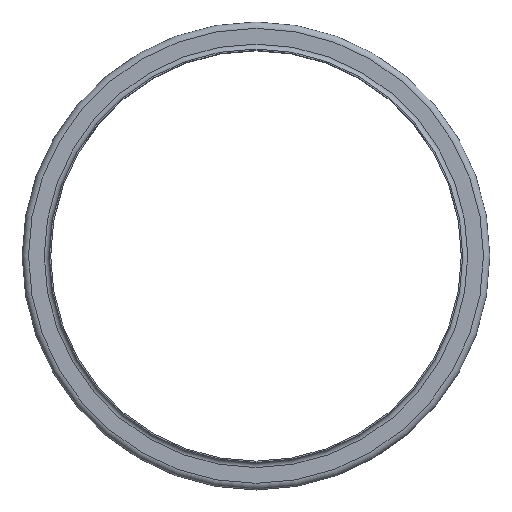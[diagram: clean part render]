
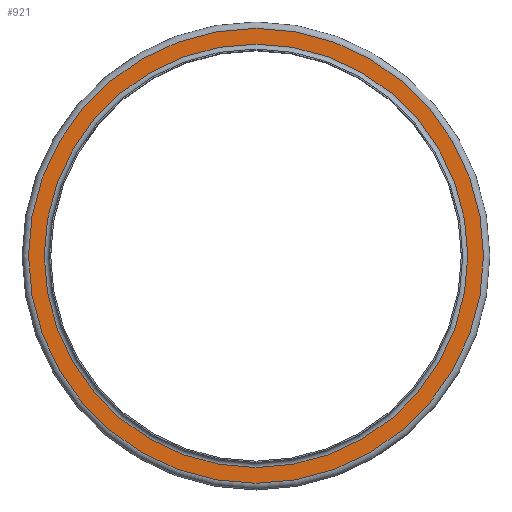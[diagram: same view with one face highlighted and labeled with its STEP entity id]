
A CAD part, top view. The second image highlights one B-rep face of the part: STEP entity #921.
In plain terms, the highlighted planar face has unit normal (0, 0, 1).
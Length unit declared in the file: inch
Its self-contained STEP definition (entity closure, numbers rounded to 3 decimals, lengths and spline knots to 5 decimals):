
#98=FACE_BOUND('',#272,.T.);
#165=FACE_OUTER_BOUND('',#271,.T.);
#271=EDGE_LOOP('',(#772));
#272=EDGE_LOOP('',(#773));
#385=CIRCLE('',#1110,9.28);
#386=CIRCLE('',#1112,9.97);
#466=VERTEX_POINT('',#1734);
#467=VERTEX_POINT('',#1738);
#571=EDGE_CURVE('',#466,#466,#385,.T.);
#572=EDGE_CURVE('',#467,#467,#386,.T.);
#772=ORIENTED_EDGE('',*,*,#572,.F.);
#773=ORIENTED_EDGE('',*,*,#571,.T.);
#854=PLANE('',#1111);
#921=ADVANCED_FACE('',(#165,#98),#854,.T.);
#1110=AXIS2_PLACEMENT_3D('',#1736,#1446,#1447);
#1111=AXIS2_PLACEMENT_3D('',#1737,#1448,#1449);
#1112=AXIS2_PLACEMENT_3D('',#1739,#1450,#1451);
#1446=DIRECTION('center_axis',(0.,0.,-1.));
#1447=DIRECTION('ref_axis',(1.,0.,0.));
#1448=DIRECTION('center_axis',(0.,0.,1.));
#1449=DIRECTION('ref_axis',(1.,0.,0.));
#1450=DIRECTION('center_axis',(0.,0.,-1.));
#1451=DIRECTION('ref_axis',(1.,0.,0.));
#1734=CARTESIAN_POINT('',(9.28,0.,-0.22));
#1736=CARTESIAN_POINT('Origin',(0.,0.,-0.22));
#1737=CARTESIAN_POINT('Origin',(0.,9.97,-0.22));
#1738=CARTESIAN_POINT('',(9.97,0.,-0.22));
#1739=CARTESIAN_POINT('Origin',(0.,0.,-0.22));
